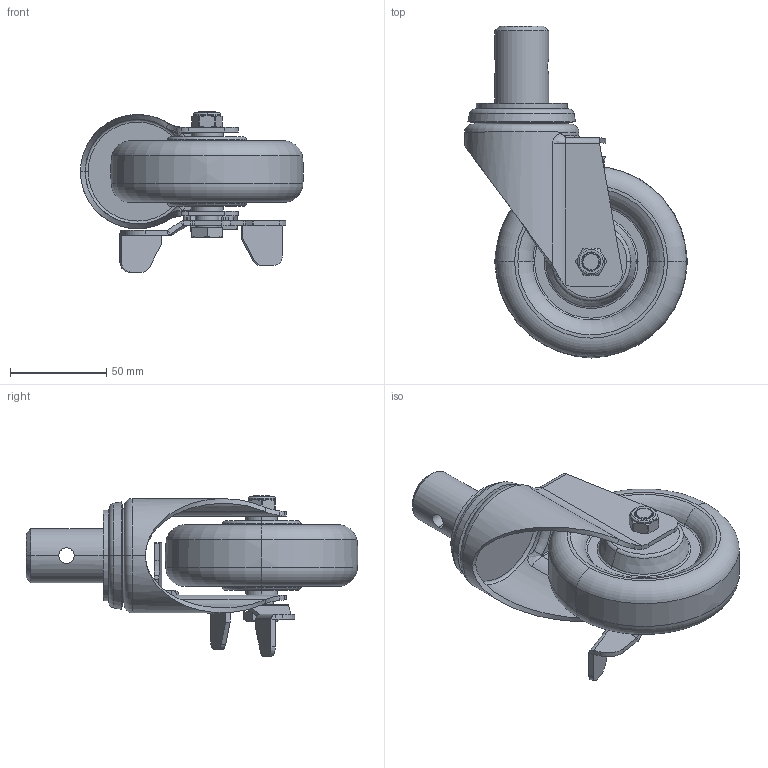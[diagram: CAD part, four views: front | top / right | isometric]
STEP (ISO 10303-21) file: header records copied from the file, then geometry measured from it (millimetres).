
FILE_DESCRIPTION((''),'2;1');
FILE_NAME('50164C-504-86_ASM','2020-01-07T',('L'),(''),'PRO/ENGINEER BY PARAMETRIC TECHNOLOGY CORPORATION, 2010280','PRO/ENGINEER BY PARAMETRIC TECHNOLOGY CORPORATION, 2010280','');
FILE_SCHEMA(('CONFIG_CONTROL_DESIGN'));
Length unit declared in the file: millimetre
Products named in the file (7): 50164C; 504-986; 502-33; 570-34; 503-15; 500-14; 50164C-504-86_ASM
Assembly tree (6 placements, depth 2):
  50164C-504-86_ASM
    50164C
    504-986
    502-33
    570-34
    503-15
    500-14
Bounding box: 115.63 x 172.18 x 83.14 mm (x, y, z)
Volume: 304256.8 mm3; surface area: 70745.1 mm2
Topology: 6 solids, 6 shells, 401 faces, 964 edges, 588 vertices
Faces by surface type: cylinder 148, plane 138, bspline 50, cone 33, torus 32
Entity records: 20228 total; most frequent: CARTESIAN_POINT 11136, ORIENTED_EDGE 1928, DIRECTION 1753, EDGE_CURVE 964, AXIS2_PLACEMENT_3D 658, VERTEX_POINT 588, VECTOR 437, LINE 437
